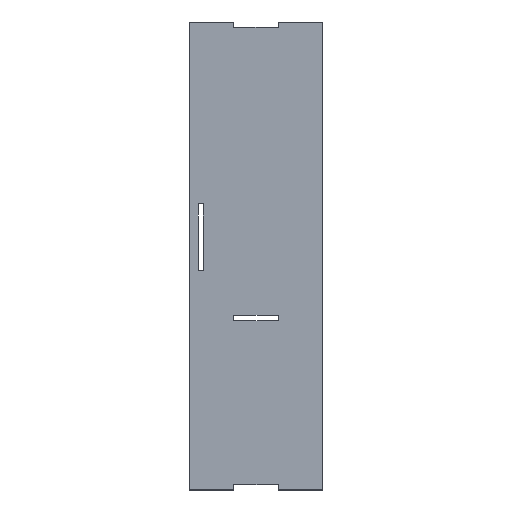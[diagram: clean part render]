
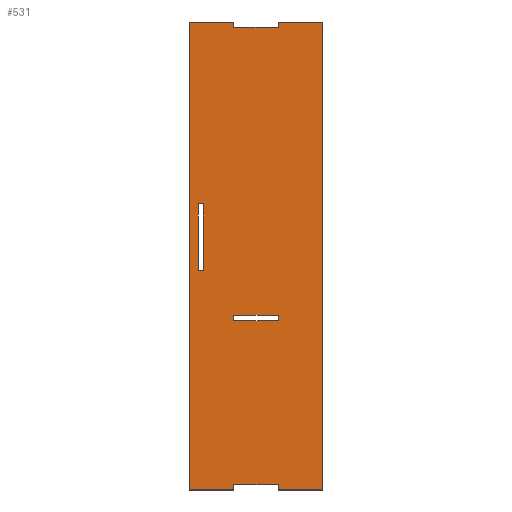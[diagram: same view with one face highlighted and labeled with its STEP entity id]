
A CAD part, top view. The second image highlights one B-rep face of the part: STEP entity #531.
In plain terms, the highlighted planar face has unit normal (0, 0, 1).
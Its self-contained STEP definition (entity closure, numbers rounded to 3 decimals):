
#6 = CARTESIAN_POINT ( 'NONE',  ( -63.986, -601.633, 10. ) ) ;
#10 = CARTESIAN_POINT ( 'NONE',  ( 36.014, 68.367, 10. ) ) ;
#19 = DIRECTION ( 'NONE',  ( -1., 0., 0. ) ) ;
#20 = LINE ( 'NONE', #245, #662 ) ;
#25 = CARTESIAN_POINT ( 'NONE',  ( -63.986, 68.367, 10. ) ) ;
#28 = EDGE_CURVE ( 'NONE', #639, #356, #96, .T. ) ;
#29 = CARTESIAN_POINT ( 'NONE',  ( -63.986, -981.633, 10. ) ) ;
#35 = VECTOR ( 'NONE', #42, 1000. ) ;
#36 = ORIENTED_EDGE ( 'NONE', *, *, #629, .T. ) ;
#39 = ORIENTED_EDGE ( 'NONE', *, *, #735, .T. ) ;
#41 = ORIENTED_EDGE ( 'NONE', *, *, #265, .T. ) ;
#42 = DIRECTION ( 'NONE',  ( 0., -1., 0. ) ) ;
#46 = EDGE_CURVE ( 'NONE', #603, #669, #105, .T. ) ;
#49 = LINE ( 'NONE', #536, #405 ) ;
#55 = CARTESIAN_POINT ( 'NONE',  ( -163.986, -981.633, 10. ) ) ;
#58 = CARTESIAN_POINT ( 'NONE',  ( 36.014, -589.633, 10. ) ) ;
#61 = LINE ( 'NONE', #395, #160 ) ;
#72 = ORIENTED_EDGE ( 'NONE', *, *, #338, .F. ) ;
#76 = FACE_OUTER_BOUND ( 'NONE', #262, .T. ) ;
#86 = CARTESIAN_POINT ( 'NONE',  ( 36.014, -981.633, 10. ) ) ;
#87 = VERTEX_POINT ( 'NONE', #700 ) ;
#96 = LINE ( 'NONE', #385, #35 ) ;
#105 = LINE ( 'NONE', #380, #242 ) ;
#109 = LINE ( 'NONE', #386, #225 ) ;
#117 = DIRECTION ( 'NONE',  ( 0., 1., 0. ) ) ;
#120 = VECTOR ( 'NONE', #507, 1000. ) ;
#127 = LINE ( 'NONE', #353, #241 ) ;
#132 = PLANE ( 'NONE',  #650 ) ;
#144 = LINE ( 'NONE', #593, #542 ) ;
#146 = ORIENTED_EDGE ( 'NONE', *, *, #272, .T. ) ;
#153 = ORIENTED_EDGE ( 'NONE', *, *, #438, .T. ) ;
#157 = EDGE_CURVE ( 'NONE', #492, #702, #285, .T. ) ;
#160 = VECTOR ( 'NONE', #515, 1000. ) ;
#172 = CARTESIAN_POINT ( 'NONE',  ( 36.014, -969.633, 10. ) ) ;
#200 = EDGE_LOOP ( 'NONE', ( #525, #326, #253, #72 ) ) ;
#206 = VERTEX_POINT ( 'NONE', #362 ) ;
#208 = EDGE_CURVE ( 'NONE', #479, #305, #144, .T. ) ;
#213 = VERTEX_POINT ( 'NONE', #29 ) ;
#214 = LINE ( 'NONE', #55, #722 ) ;
#215 = VECTOR ( 'NONE', #717, 1000. ) ;
#216 = VECTOR ( 'NONE', #19, 1000. ) ;
#225 = VECTOR ( 'NONE', #732, 1000. ) ;
#233 = CARTESIAN_POINT ( 'NONE',  ( -63.986, -589.633, 10. ) ) ;
#241 = VECTOR ( 'NONE', #523, 1000. ) ;
#242 = VECTOR ( 'NONE', #558, 1000. ) ;
#245 = CARTESIAN_POINT ( 'NONE',  ( 36.014, -981.633, 10. ) ) ;
#250 = EDGE_CURVE ( 'NONE', #541, #479, #256, .T. ) ;
#252 = FACE_BOUND ( 'NONE', #712, .T. ) ;
#253 = ORIENTED_EDGE ( 'NONE', *, *, #423, .F. ) ;
#256 = LINE ( 'NONE', #259, #572 ) ;
#259 = CARTESIAN_POINT ( 'NONE',  ( 36.014, -589.633, 10. ) ) ;
#262 = EDGE_LOOP ( 'NONE', ( #521, #153, #646, #39, #417, #574, #41, #321, #656, #36, #371, #146 ) ) ;
#265 = EDGE_CURVE ( 'NONE', #669, #492, #419, .T. ) ;
#269 = VERTEX_POINT ( 'NONE', #655 ) ;
#272 = EDGE_CURVE ( 'NONE', #588, #372, #370, .T. ) ;
#285 = LINE ( 'NONE', #526, #216 ) ;
#295 = LINE ( 'NONE', #6, #434 ) ;
#305 = VERTEX_POINT ( 'NONE', #233 ) ;
#315 = CARTESIAN_POINT ( 'NONE',  ( -163.986, 68.367, 10. ) ) ;
#318 = VERTEX_POINT ( 'NONE', #172 ) ;
#321 = ORIENTED_EDGE ( 'NONE', *, *, #157, .T. ) ;
#325 = CARTESIAN_POINT ( 'NONE',  ( 136.014, 68.367, 10. ) ) ;
#326 = ORIENTED_EDGE ( 'NONE', *, *, #28, .F. ) ;
#332 = CARTESIAN_POINT ( 'NONE',  ( -63.986, 56.367, 10. ) ) ;
#335 = CARTESIAN_POINT ( 'NONE',  ( 36.014, 68.367, 10. ) ) ;
#338 = EDGE_CURVE ( 'NONE', #87, #436, #517, .T. ) ;
#343 = EDGE_CURVE ( 'NONE', #269, #541, #295, .T. ) ;
#350 = CARTESIAN_POINT ( 'NONE',  ( 36.014, 56.367, 10. ) ) ;
#353 = CARTESIAN_POINT ( 'NONE',  ( -63.986, -589.633, 10. ) ) ;
#356 = VERTEX_POINT ( 'NONE', #575 ) ;
#358 = FACE_BOUND ( 'NONE', #200, .T. ) ;
#362 = CARTESIAN_POINT ( 'NONE',  ( -63.986, 56.367, 10. ) ) ;
#367 = DIRECTION ( 'NONE',  ( 0., 1., 0. ) ) ;
#370 = LINE ( 'NONE', #315, #215 ) ;
#371 = ORIENTED_EDGE ( 'NONE', *, *, #495, .T. ) ;
#372 = VERTEX_POINT ( 'NONE', #638 ) ;
#373 = VECTOR ( 'NONE', #705, 1000. ) ;
#379 = VERTEX_POINT ( 'NONE', #350 ) ;
#380 = CARTESIAN_POINT ( 'NONE',  ( 36.014, -981.633, 10. ) ) ;
#383 = VECTOR ( 'NONE', #647, 1000. ) ;
#385 = CARTESIAN_POINT ( 'NONE',  ( -143.986, -339.633, 10. ) ) ;
#386 = CARTESIAN_POINT ( 'NONE',  ( -143.986, -339.633, 10. ) ) ;
#387 = CARTESIAN_POINT ( 'NONE',  ( -143.986, -489.633, 10. ) ) ;
#395 = CARTESIAN_POINT ( 'NONE',  ( -63.986, -969.633, 10. ) ) ;
#400 = CARTESIAN_POINT ( 'NONE',  ( -163.986, -981.633, 10. ) ) ;
#401 = CARTESIAN_POINT ( 'NONE',  ( -131.986, -339.633, 10. ) ) ;
#404 = DIRECTION ( 'NONE',  ( -1., 0., 0. ) ) ;
#405 = VECTOR ( 'NONE', #473, 1000. ) ;
#417 = ORIENTED_EDGE ( 'NONE', *, *, #554, .T. ) ;
#419 = LINE ( 'NONE', #428, #383 ) ;
#423 = EDGE_CURVE ( 'NONE', #436, #639, #109, .T. ) ;
#426 = DIRECTION ( 'NONE',  ( 0., -1., 0. ) ) ;
#428 = CARTESIAN_POINT ( 'NONE',  ( 136.014, 68.367, 10. ) ) ;
#434 = VECTOR ( 'NONE', #633, 1000. ) ;
#436 = VERTEX_POINT ( 'NONE', #503 ) ;
#438 = EDGE_CURVE ( 'NONE', #727, #213, #214, .T. ) ;
#448 = CARTESIAN_POINT ( 'NONE',  ( -143.986, -339.633, 10. ) ) ;
#456 = LINE ( 'NONE', #387, #120 ) ;
#467 = DIRECTION ( 'NONE',  ( 0., -1., 0. ) ) ;
#473 = DIRECTION ( 'NONE',  ( 0., 1., 0. ) ) ;
#479 = VERTEX_POINT ( 'NONE', #58 ) ;
#481 = LINE ( 'NONE', #710, #693 ) ;
#492 = VERTEX_POINT ( 'NONE', #325 ) ;
#493 = ORIENTED_EDGE ( 'NONE', *, *, #343, .F. ) ;
#495 = EDGE_CURVE ( 'NONE', #206, #588, #49, .T. ) ;
#501 = EDGE_CURVE ( 'NONE', #305, #269, #127, .T. ) ;
#503 = CARTESIAN_POINT ( 'NONE',  ( -131.986, -339.633, 10. ) ) ;
#505 = VECTOR ( 'NONE', #564, 1000. ) ;
#507 = DIRECTION ( 'NONE',  ( 1., 0., 0. ) ) ;
#511 = EDGE_CURVE ( 'NONE', #213, #534, #582, .T. ) ;
#513 = VECTOR ( 'NONE', #404, 1000. ) ;
#515 = DIRECTION ( 'NONE',  ( 1., 0., 0. ) ) ;
#517 = LINE ( 'NONE', #401, #560 ) ;
#521 = ORIENTED_EDGE ( 'NONE', *, *, #605, .T. ) ;
#523 = DIRECTION ( 'NONE',  ( 0., -1., 0. ) ) ;
#525 = ORIENTED_EDGE ( 'NONE', *, *, #649, .F. ) ;
#526 = CARTESIAN_POINT ( 'NONE',  ( 36.014, 68.367, 10. ) ) ;
#527 = CARTESIAN_POINT ( 'NONE',  ( 0., 0., 10. ) ) ;
#531 = ADVANCED_FACE ( 'NONE', ( #76, #358, #252 ), #132, .T. ) ;
#533 = DIRECTION ( 'NONE',  ( 0., 0., 1. ) ) ;
#534 = VERTEX_POINT ( 'NONE', #590 ) ;
#536 = CARTESIAN_POINT ( 'NONE',  ( -63.986, 68.367, 10. ) ) ;
#541 = VERTEX_POINT ( 'NONE', #701 ) ;
#542 = VECTOR ( 'NONE', #659, 1000. ) ;
#547 = ORIENTED_EDGE ( 'NONE', *, *, #208, .F. ) ;
#554 = EDGE_CURVE ( 'NONE', #318, #603, #20, .T. ) ;
#557 = DIRECTION ( 'NONE',  ( 1., 0., 0. ) ) ;
#558 = DIRECTION ( 'NONE',  ( 1., 0., 0. ) ) ;
#560 = VECTOR ( 'NONE', #117, 1000. ) ;
#561 = LINE ( 'NONE', #10, #505 ) ;
#564 = DIRECTION ( 'NONE',  ( 0., -1., 0. ) ) ;
#572 = VECTOR ( 'NONE', #367, 1000. ) ;
#574 = ORIENTED_EDGE ( 'NONE', *, *, #46, .T. ) ;
#575 = CARTESIAN_POINT ( 'NONE',  ( -143.986, -489.633, 10. ) ) ;
#582 = LINE ( 'NONE', #586, #373 ) ;
#586 = CARTESIAN_POINT ( 'NONE',  ( -63.986, -981.633, 10. ) ) ;
#588 = VERTEX_POINT ( 'NONE', #25 ) ;
#590 = CARTESIAN_POINT ( 'NONE',  ( -63.986, -969.633, 10. ) ) ;
#593 = CARTESIAN_POINT ( 'NONE',  ( -63.986, -589.633, 10. ) ) ;
#603 = VERTEX_POINT ( 'NONE', #86 ) ;
#605 = EDGE_CURVE ( 'NONE', #372, #727, #481, .T. ) ;
#625 = LINE ( 'NONE', #332, #513 ) ;
#629 = EDGE_CURVE ( 'NONE', #379, #206, #625, .T. ) ;
#633 = DIRECTION ( 'NONE',  ( 1., 0., 0. ) ) ;
#638 = CARTESIAN_POINT ( 'NONE',  ( -163.986, 68.367, 10. ) ) ;
#639 = VERTEX_POINT ( 'NONE', #448 ) ;
#646 = ORIENTED_EDGE ( 'NONE', *, *, #511, .T. ) ;
#647 = DIRECTION ( 'NONE',  ( 0., 1., 0. ) ) ;
#649 = EDGE_CURVE ( 'NONE', #356, #87, #456, .T. ) ;
#650 = AXIS2_PLACEMENT_3D ( 'NONE', #527, #533, #697 ) ;
#655 = CARTESIAN_POINT ( 'NONE',  ( -63.986, -601.633, 10. ) ) ;
#656 = ORIENTED_EDGE ( 'NONE', *, *, #707, .T. ) ;
#658 = ORIENTED_EDGE ( 'NONE', *, *, #250, .F. ) ;
#659 = DIRECTION ( 'NONE',  ( -1., 0., 0. ) ) ;
#662 = VECTOR ( 'NONE', #467, 1000. ) ;
#669 = VERTEX_POINT ( 'NONE', #733 ) ;
#671 = ORIENTED_EDGE ( 'NONE', *, *, #501, .F. ) ;
#693 = VECTOR ( 'NONE', #426, 1000. ) ;
#697 = DIRECTION ( 'NONE',  ( 1., 0., 0. ) ) ;
#700 = CARTESIAN_POINT ( 'NONE',  ( -131.986, -489.633, 10. ) ) ;
#701 = CARTESIAN_POINT ( 'NONE',  ( 36.014, -601.633, 10. ) ) ;
#702 = VERTEX_POINT ( 'NONE', #335 ) ;
#705 = DIRECTION ( 'NONE',  ( 0., 1., 0. ) ) ;
#707 = EDGE_CURVE ( 'NONE', #702, #379, #561, .T. ) ;
#710 = CARTESIAN_POINT ( 'NONE',  ( -163.986, 68.367, 10. ) ) ;
#712 = EDGE_LOOP ( 'NONE', ( #493, #671, #547, #658 ) ) ;
#717 = DIRECTION ( 'NONE',  ( -1., 0., 0. ) ) ;
#722 = VECTOR ( 'NONE', #557, 1000. ) ;
#727 = VERTEX_POINT ( 'NONE', #400 ) ;
#732 = DIRECTION ( 'NONE',  ( -1., 0., 0. ) ) ;
#733 = CARTESIAN_POINT ( 'NONE',  ( 136.014, -981.633, 10. ) ) ;
#735 = EDGE_CURVE ( 'NONE', #534, #318, #61, .T. ) ;
